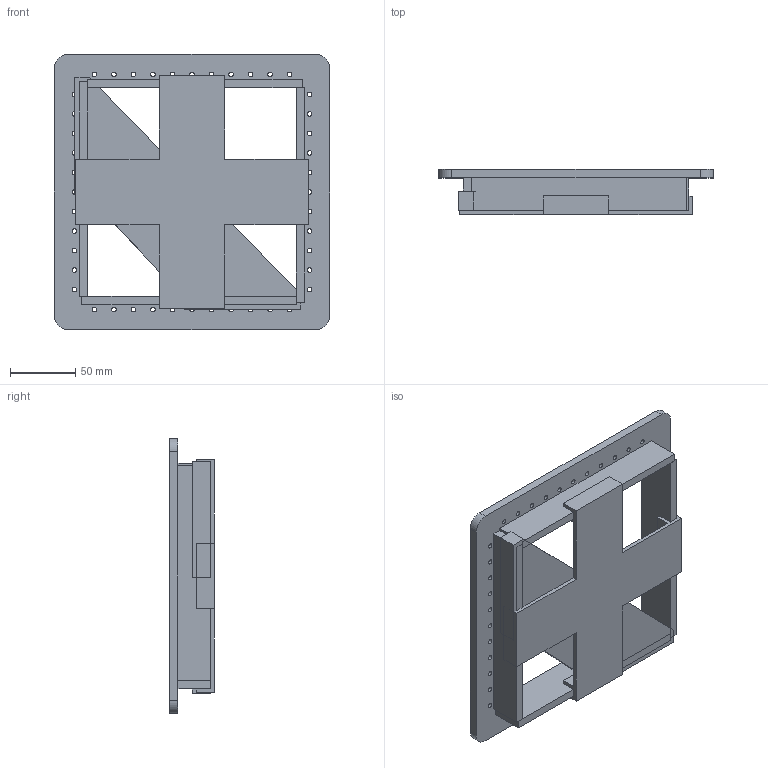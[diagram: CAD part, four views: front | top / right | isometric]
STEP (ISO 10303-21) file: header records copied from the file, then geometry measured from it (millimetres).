
FILE_DESCRIPTION(/* description */ (''),/* implementation_level */ '2;1');
FILE_NAME(/* name */ 'FlexVat_V2_ASSM.stp',/* time_stamp */ '2015-11-11T13:07:34-05:00',/* author */ (''),/* organization */ (''),/* preprocessor_version */ 'ST-DEVELOPER v11',/* originating_system */ 'SIEMENS PLM Software NX 7.5',/* authorisation */ '');
FILE_SCHEMA (('AUTOMOTIVE_DESIGN { 1 0 10303 214 1 1 1 1 }'));
Length unit declared in the file: millimetre
Products named in the file (5): 180degFixture; 90degFixture; VatWall2; Poly_Base; FlexVat_V2_ASSM
Assembly tree (7 placements, depth 2):
  FlexVat_V2_ASSM
    Poly_Base
    VatWall2  x4
    90degFixture
    180degFixture
Bounding box: 210.45 x 34.35 x 210.45 mm (x, y, z)
Volume: 444626.8 mm3; surface area: 173947.7 mm2
Topology: 7 solids, 7 shells, 146 faces, 396 edges, 264 vertices
Faces by surface type: plane 98, cylinder 48
Full cylindrical faces by diameter (mm): 3.5 x44
Entity records: 4046 total; most frequent: CARTESIAN_POINT 656, DIRECTION 654, ORIENTED_EDGE 596, EDGE_CURVE 298, EDGE_LOOP 256, VERTEX_POINT 228, AXIS2_PLACEMENT_3D 226, LINE 202
